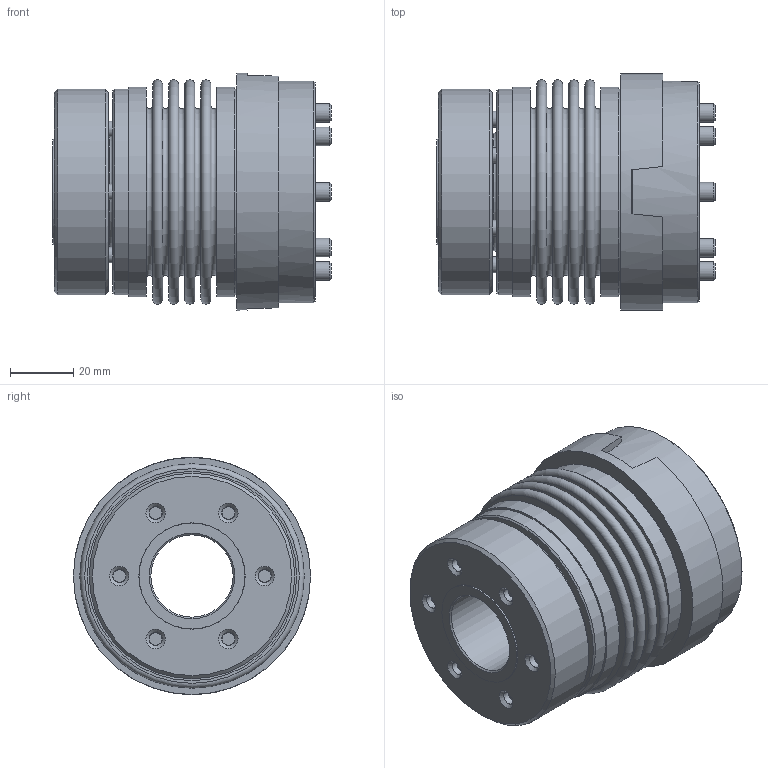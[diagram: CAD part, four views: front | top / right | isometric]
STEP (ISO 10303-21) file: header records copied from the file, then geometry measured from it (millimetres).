
FILE_DESCRIPTION( ( 'Unknown' ), '1' );
FILE_NAME( 'F:/JAKOB-STEP+IGES-Dateien/STEP-Dateien/KPP-F/KPP-F 140.stp', 'Unknown', ( 'Unknown' ), ( 'Unknown' ), 'PSStep 10.1', 'Unknown', ' ' );
FILE_SCHEMA( ( 'AUTOMOTIVE_DESIGN { 1 0 10303 214 1 1 1 1 }' ) );
Length unit declared in the file: millimetre
Products named in the file (1): 28521458
Bounding box: 87.99 x 75 x 75 mm (x, y, z)
Volume: 164910.8 mm3; surface area: 88958.3 mm2
Topology: 1 solids, 1 shells, 457 faces, 1030 edges, 648 vertices
Faces by surface type: plane 281, cylinder 89, cone 52, torus 35
Full cylindrical faces by diameter (mm): 4.134 x10, 5 x6, 5.4 x6, 6 x18, 6.4 x8, 8.5 x6, 9 x6, 10 x8, 10.5 x8, 26 x1, 30 x1, 39 x1, 63 x1, 65 x3, 66.2 x2, 70 x1, 75 x1
Entity records: 15054 total; most frequent: DIRECTION 2104, CARTESIAN_POINT 1856, ORIENTED_EDGE 1576, AXIS2_PLACEMENT_3D 862, EDGE_CURVE 788, EDGE_LOOP 746, VERTEX_POINT 590, FACE_OUTER_BOUND 577
